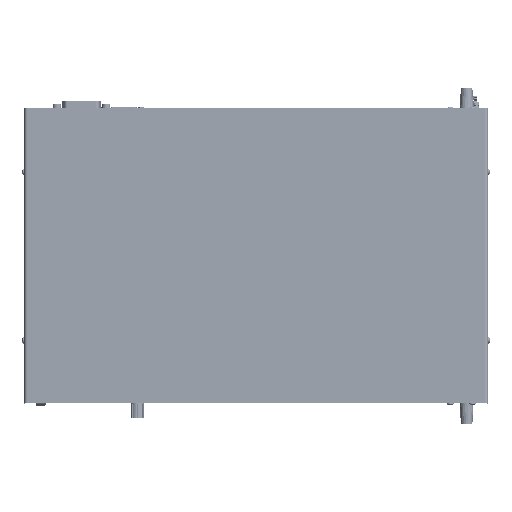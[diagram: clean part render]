
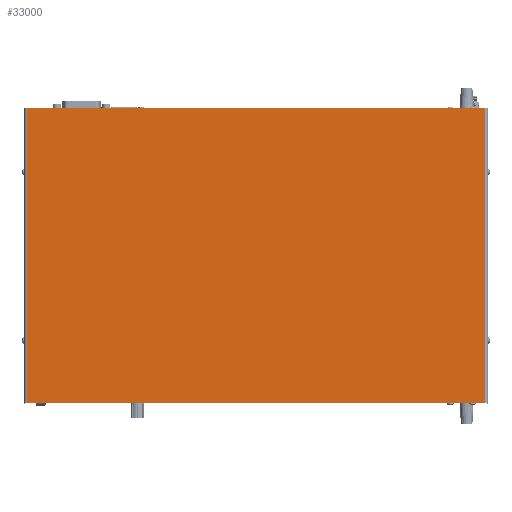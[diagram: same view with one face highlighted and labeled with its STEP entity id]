
A CAD part, top view. The second image highlights one B-rep face of the part: STEP entity #33000.
In plain terms, the highlighted planar face has unit normal (0, 0, 1).
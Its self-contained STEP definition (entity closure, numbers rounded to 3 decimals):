
#33000=ADVANCED_FACE('',(#67735),#67736,.T.);
#67735=FACE_OUTER_BOUND('',#115357,.T.);
#67736=PLANE('',#115358);
#115357=EDGE_LOOP('',(#214864,#214865,#214866,#214867));
#115358=AXIS2_PLACEMENT_3D('',#214868,#214869,#214870);
#214864=ORIENTED_EDGE('',*,*,#257854,.F.);
#214865=ORIENTED_EDGE('',*,*,#257524,.T.);
#214866=ORIENTED_EDGE('',*,*,#257856,.T.);
#214867=ORIENTED_EDGE('',*,*,#257631,.F.);
#214868=CARTESIAN_POINT('',(333.282,299.75,100.184));
#214869=DIRECTION('',(0.,0.,1.0));
#214870=DIRECTION('',(-1.0,0.,0.));
#257524=EDGE_CURVE('',#315828,#315826,#315829,.T.);
#257631=EDGE_CURVE('',#315938,#315933,#315940,.T.);
#257854=EDGE_CURVE('',#315828,#315938,#316267,.T.);
#257856=EDGE_CURVE('',#315826,#315933,#316269,.T.);
#315826=VERTEX_POINT('',#399900);
#315828=VERTEX_POINT('',#399902);
#315829=LINE('',#399903,#399904);
#315933=VERTEX_POINT('',#400057);
#315938=VERTEX_POINT('',#400063);
#315940=LINE('',#400065,#400066);
#316267=LINE('',#400548,#400549);
#316269=LINE('',#400551,#400552);
#399900=CARTESIAN_POINT('',(5.032,19.75,100.184));
#399902=CARTESIAN_POINT('',(5.032,299.75,100.184));
#399903=CARTESIAN_POINT('',(5.032,299.75,100.184));
#399904=VECTOR('',#445634,1.0);
#400057=CARTESIAN_POINT('',(439.033,19.75,100.184));
#400063=CARTESIAN_POINT('',(439.033,299.75,100.184));
#400065=CARTESIAN_POINT('',(439.033,299.75,100.184));
#400066=VECTOR('',#445694,1.0);
#400548=CARTESIAN_POINT('',(227.532,299.75,100.184));
#400549=VECTOR('',#445880,1.0);
#400551=CARTESIAN_POINT('',(227.532,19.75,100.184));
#400552=VECTOR('',#445881,1.0);
#445634=DIRECTION('',(0.0,-1.0,0.0));
#445694=DIRECTION('',(0.0,-1.0,0.0));
#445880=DIRECTION('',(1.0,0.0,0.0));
#445881=DIRECTION('',(1.0,0.0,0.0));
